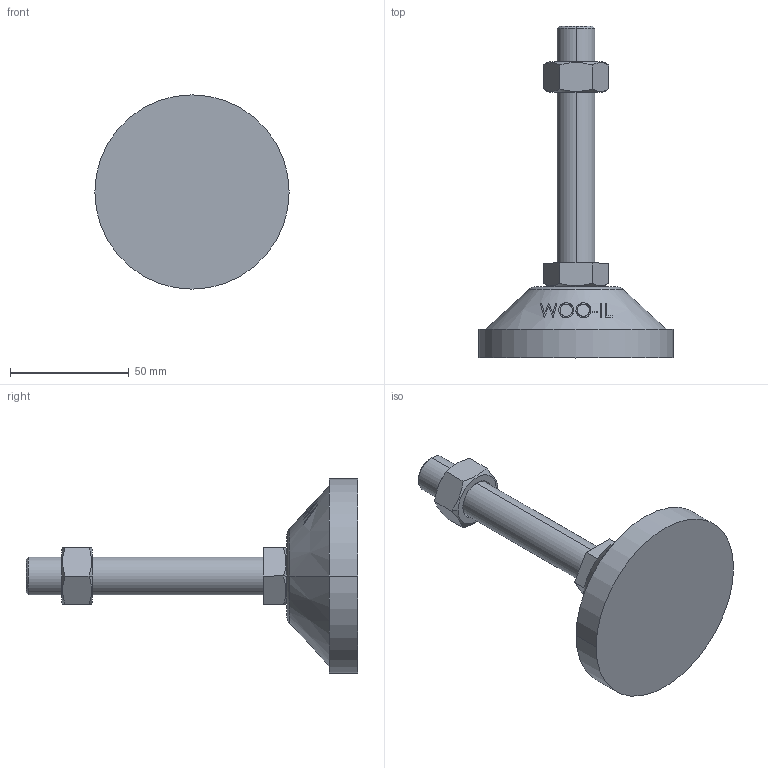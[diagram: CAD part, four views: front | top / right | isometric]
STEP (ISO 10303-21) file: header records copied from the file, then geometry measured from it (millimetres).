
FILE_DESCRIPTION (( 'STEP AP214' ), '1' );
FILE_NAME ('RL82-M16-100.step', '2021-01-06T08:17:33', ( '' ), ( '' ), 'SwSTEP 2.0', 'SolidWorks 2019', '' );
FILE_SCHEMA (( 'AUTOMOTIVE_DESIGN' ));
Length unit declared in the file: millimetre
Products named in the file (1): RL82-M16-100
Bounding box: 82 x 140 x 82 mm (x, y, z)
Volume: 139697.4 mm3; surface area: 23899.7 mm2
Topology: 3 solids, 3 shells, 93 faces, 217 edges, 140 vertices
Faces by surface type: plane 47, cone 22, bspline 16, cylinder 6, torus 2
Entity records: 4223 total; most frequent: CARTESIAN_POINT 2191, ORIENTED_EDGE 434, DIRECTION 349, EDGE_CURVE 217, VERTEX_POINT 140, AXIS2_PLACEMENT_3D 134, EDGE_LOOP 105, ADVANCED_FACE 93
